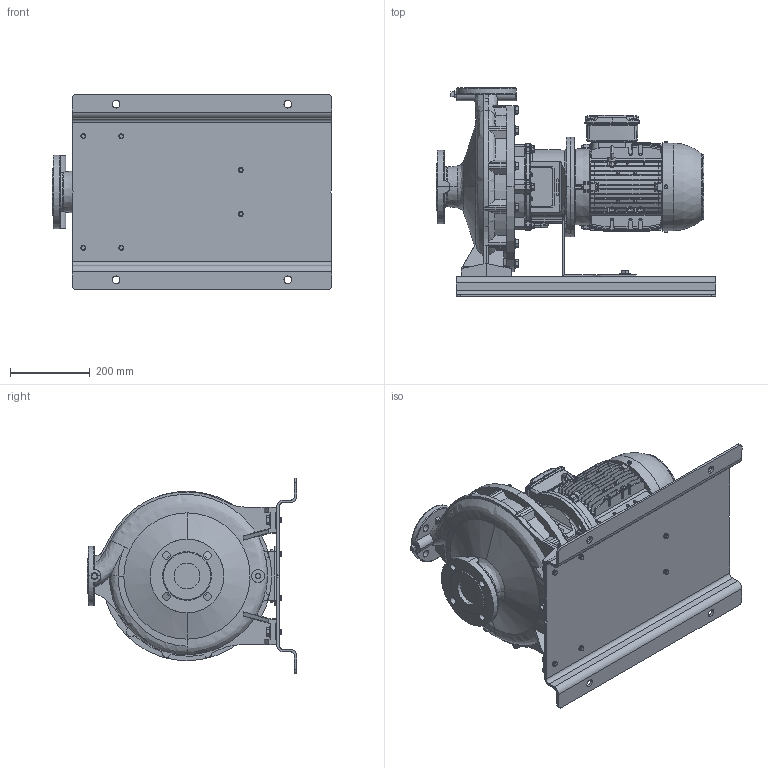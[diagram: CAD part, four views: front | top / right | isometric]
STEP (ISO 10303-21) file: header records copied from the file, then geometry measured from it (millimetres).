
FILE_DESCRIPTION (( 'STEP AP214' ), '1' );
FILE_NAME ('GSD4 40-315_4.0_(112M)_W21_BP.STEP', '2024-08-08T06:04:43', ( '' ), ( '' ), 'SwSTEP 2.0', 'SolidWorks 2019', '' );
FILE_SCHEMA (( 'AUTOMOTIVE_DESIGN' ));
Length unit declared in the file: millimetre
Products named in the file (14): Parametric bolt and washer_SFT-A299B; GSD4 40-315_4.0_(112M)_W21_BP; Parametric bolt_SFT-A295B; 112M ALIE3_W21T_B5; 40-315-112M_______; Parametric bolt and washer_SFT-A295B; N5S5 GSDA-556 F1-1832919-00; Parametric Flat Washer_M12; Parametric bolt_SFT-A299B; CGSD1-41A3
Assembly tree (22 placements, depth 3):
  GSD4 40-315_4.0_(112M)_W21_BP
    40-315-112M_______
    112M ALIE3_W21T_B5
    N5S5 GSDA-556 F1-1832919-00
    CGSD1-41A3
    Parametric bolt and washer_SFT-A299B
      Parametric bolt_SFT-A299B
      Parametric Flat Washer_M12
    Parametric bolt and washer_SFT-A299B
      Parametric bolt_SFT-A299B
      Parametric Flat Washer_M12
    Parametric bolt and washer_SFT-A295B
      Parametric bolt_SFT-A295B
      Parametric Flat Washer_M12
    Parametric bolt and washer_SFT-A295B
      Parametric bolt_SFT-A295B
      Parametric Flat Washer_M12
    Parametric bolt and washer_SFT-A299B
      Parametric bolt_SFT-A299B
      Parametric Flat Washer_M12
    Parametric bolt and washer_SFT-A299B
      Parametric bolt_SFT-A299B
      Parametric Flat Washer_M12
Bounding box: 700 x 525 x 490 mm (x, y, z)
Volume: 28835018.4 mm3; surface area: 2475270.2 mm2
Topology: 29 solids, 30 shells, 4775 faces, 12641 edges, 8195 vertices
Faces by surface type: plane 2474, cylinder 1072, bspline 509, cone 364, torus 342, sphere 14
Entity records: 210239 total; most frequent: CARTESIAN_POINT 102951, ORIENTED_EDGE 24056, DIRECTION 19457, EDGE_CURVE 12028, VERTEX_POINT 7810, AXIS2_PLACEMENT_3D 6490, VECTOR 6477, LINE 6477
